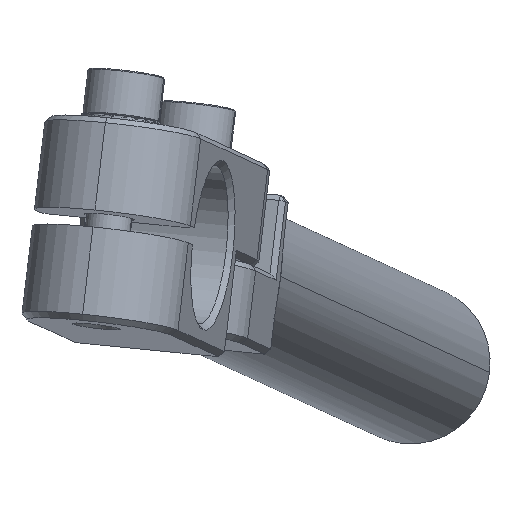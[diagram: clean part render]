
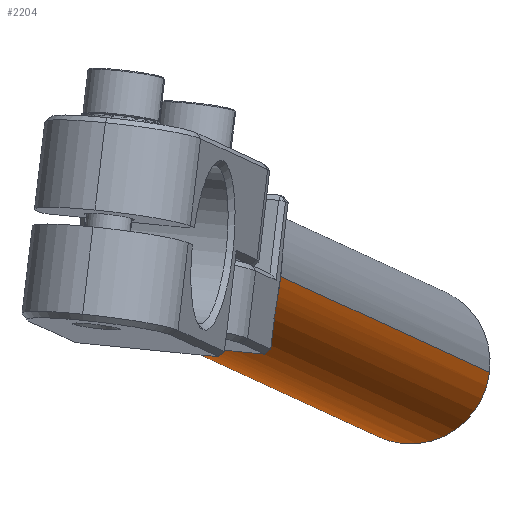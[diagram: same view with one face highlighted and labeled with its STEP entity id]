
A CAD part, top view. The second image highlights one B-rep face of the part: STEP entity #2204.
In plain terms, the highlighted cylindrical face has radius 7 mm (diameter 14 mm), a partial arc.
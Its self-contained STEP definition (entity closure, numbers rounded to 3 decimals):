
#195 = CARTESIAN_POINT ( 'NONE',  ( 6.612, -2.308, -0.5 ) ) ;
#255 = CARTESIAN_POINT ( 'NONE',  ( 6.798, -1.684, -0.418 ) ) ;
#693 = VERTEX_POINT ( 'NONE', #8920 ) ;
#699 = CARTESIAN_POINT ( 'NONE',  ( 1.473, -6.847, -0.376 ) ) ;
#709 = CARTESIAN_POINT ( 'NONE',  ( -6.952, -0.844, -0.228 ) ) ;
#712 = DIRECTION ( 'NONE',  ( 0., 0., 1. ) ) ;
#831 = CARTESIAN_POINT ( 'NONE',  ( -6.847, -1.473, -0.376 ) ) ;
#1049 = CARTESIAN_POINT ( 'NONE',  ( 0., -7., 0. ) ) ;
#1502 = ORIENTED_EDGE ( 'NONE', *, *, #10826, .T. ) ;
#1510 = CARTESIAN_POINT ( 'NONE',  ( 0.423, -6.99, -0.117 ) ) ;
#1741 = EDGE_CURVE ( 'NONE', #2185, #693, #2857, .T. ) ;
#1822 = DIRECTION ( 'NONE',  ( 0., 0., 1. ) ) ;
#1874 = CARTESIAN_POINT ( 'NONE',  ( 6.847, -1.473, -0.376 ) ) ;
#2057 = EDGE_CURVE ( 'NONE', #693, #7566, #4703, .T. ) ;
#2185 = VERTEX_POINT ( 'NONE', #9329 ) ;
#2204 = ADVANCED_FACE ( 'NONE', ( #7766 ), #7827, .T. ) ;
#2246 = CARTESIAN_POINT ( 'NONE',  ( 1.053, -6.924, -0.281 ) ) ;
#2375 = CARTESIAN_POINT ( 'NONE',  ( -6.533, -2.513, -0.5 ) ) ;
#2385 = CARTESIAN_POINT ( 'NONE',  ( -7., 0., -79.5 ) ) ;
#2514 = VERTEX_POINT ( 'NONE', #5597 ) ;
#2595 = VECTOR ( 'NONE', #7244, 1000. ) ;
#2727 = CARTESIAN_POINT ( 'NONE',  ( 6.962, -0.843, -0.234 ) ) ;
#2818 = VERTEX_POINT ( 'NONE', #2375 ) ;
#2857 = LINE ( 'NONE', #3722, #9081 ) ;
#2935 = CARTESIAN_POINT ( 'NONE',  ( -0.843, -6.962, -0.234 ) ) ;
#2950 = CARTESIAN_POINT ( 'NONE',  ( 7., 0., 0. ) ) ;
#3009 = EDGE_CURVE ( 'NONE', #2818, #11391, #6687, .T. ) ;
#3069 = CARTESIAN_POINT ( 'NONE',  ( -7., 0., -80. ) ) ;
#3416 = EDGE_CURVE ( 'NONE', #7566, #8265, #10704, .T. ) ;
#3488 = B_SPLINE_CURVE_WITH_KNOTS ( 'NONE', 3,
 ( #1049, #9899, #2935, #4561, #8328, #3862, #6369, #6422 ),
 .UNSPECIFIED., .F., .F.,
 ( 4, 2, 2, 4 ),
 ( 0., 0.001, 0.002, 0.003 ),
 .UNSPECIFIED. ) ;
#3680 = VERTEX_POINT ( 'NONE', #10500 ) ;
#3722 = CARTESIAN_POINT ( 'NONE',  ( 7., 0., -80. ) ) ;
#3800 = ORIENTED_EDGE ( 'NONE', *, *, #2057, .T. ) ;
#3823 = CARTESIAN_POINT ( 'NONE',  ( 7., -0.423, -0.117 ) ) ;
#3862 = CARTESIAN_POINT ( 'NONE',  ( -2.101, -6.681, -0.48 ) ) ;
#4030 = CARTESIAN_POINT ( 'NONE',  ( 0., 0., -0.5 ) ) ;
#4046 = AXIS2_PLACEMENT_3D ( 'NONE', #5408, #8885, #7146 ) ;
#4224 = CARTESIAN_POINT ( 'NONE',  ( -7., -0.211, -0.058 ) ) ;
#4312 = ORIENTED_EDGE ( 'NONE', *, *, #1741, .T. ) ;
#4340 = EDGE_CURVE ( 'NONE', #7756, #2185, #10093, .T. ) ;
#4479 = ORIENTED_EDGE ( 'NONE', *, *, #4340, .T. ) ;
#4561 = CARTESIAN_POINT ( 'NONE',  ( -1.473, -6.847, -0.376 ) ) ;
#4703 = B_SPLINE_CURVE_WITH_KNOTS ( 'NONE', 3,
 ( #2950, #3823, #2727, #1874, #255, #8121, #195, #5392 ),
 .UNSPECIFIED., .F., .F.,
 ( 4, 2, 2, 4 ),
 ( 0., 0.001, 0.002, 0.003 ),
 .UNSPECIFIED. ) ;
#4779 = EDGE_LOOP ( 'NONE', ( #8778, #4479, #4312, #3800, #9768, #1502, #5177, #6556, #11158 ) ) ;
#5026 = CARTESIAN_POINT ( 'NONE',  ( 0., -7., 0. ) ) ;
#5081 = CARTESIAN_POINT ( 'NONE',  ( 1.684, -6.798, -0.418 ) ) ;
#5177 = ORIENTED_EDGE ( 'NONE', *, *, #9615, .T. ) ;
#5250 = EDGE_CURVE ( 'NONE', #2514, #2818, #11244, .T. ) ;
#5392 = CARTESIAN_POINT ( 'NONE',  ( 6.533, -2.513, -0.5 ) ) ;
#5408 = CARTESIAN_POINT ( 'NONE',  ( 0., 0., -0.5 ) ) ;
#5597 = CARTESIAN_POINT ( 'NONE',  ( -2.513, -6.533, -0.5 ) ) ;
#5664 = LINE ( 'NONE', #3069, #2595 ) ;
#6012 = CARTESIAN_POINT ( 'NONE',  ( 2.101, -6.681, -0.48 ) ) ;
#6369 = CARTESIAN_POINT ( 'NONE',  ( -2.308, -6.612, -0.5 ) ) ;
#6422 = CARTESIAN_POINT ( 'NONE',  ( -2.513, -6.533, -0.5 ) ) ;
#6489 = CARTESIAN_POINT ( 'NONE',  ( 6.533, -2.513, -0.5 ) ) ;
#6556 = ORIENTED_EDGE ( 'NONE', *, *, #5250, .T. ) ;
#6687 = B_SPLINE_CURVE_WITH_KNOTS ( 'NONE', 3,
 ( #7880, #10598, #8745, #8627, #831, #8797, #709, #10539, #4224, #7992 ),
 .UNSPECIFIED., .F., .F.,
 ( 4, 2, 2, 2, 4 ),
 ( 0., 0.001, 0.001, 0.002, 0.003 ),
 .UNSPECIFIED. ) ;
#6889 = CARTESIAN_POINT ( 'NONE',  ( 0.211, -7., -0.058 ) ) ;
#7146 = DIRECTION ( 'NONE',  ( 1., 0., 0. ) ) ;
#7244 = DIRECTION ( 'NONE',  ( 0., 0., 1. ) ) ;
#7566 = VERTEX_POINT ( 'NONE', #6489 ) ;
#7695 = CARTESIAN_POINT ( 'NONE',  ( 2.513, -6.533, -0.5 ) ) ;
#7754 = CARTESIAN_POINT ( 'NONE',  ( 0.844, -6.952, -0.228 ) ) ;
#7756 = VERTEX_POINT ( 'NONE', #2385 ) ;
#7766 = FACE_OUTER_BOUND ( 'NONE', #4779, .T. ) ;
#7827 = CYLINDRICAL_SURFACE ( 'NONE', #10947, 7. ) ;
#7880 = CARTESIAN_POINT ( 'NONE',  ( -6.533, -2.513, -0.5 ) ) ;
#7882 = DIRECTION ( 'NONE',  ( 1., 0., 0. ) ) ;
#7992 = CARTESIAN_POINT ( 'NONE',  ( -7., 0., 0. ) ) ;
#8079 = DIRECTION ( 'NONE',  ( 0., 0., 1. ) ) ;
#8121 = CARTESIAN_POINT ( 'NONE',  ( 6.681, -2.101, -0.48 ) ) ;
#8265 = VERTEX_POINT ( 'NONE', #9783 ) ;
#8295 = CARTESIAN_POINT ( 'NONE',  ( -7., 0., 0. ) ) ;
#8328 = CARTESIAN_POINT ( 'NONE',  ( -1.684, -6.798, -0.418 ) ) ;
#8627 = CARTESIAN_POINT ( 'NONE',  ( -6.798, -1.684, -0.418 ) ) ;
#8745 = CARTESIAN_POINT ( 'NONE',  ( -6.681, -2.101, -0.48 ) ) ;
#8778 = ORIENTED_EDGE ( 'NONE', *, *, #9221, .F. ) ;
#8797 = CARTESIAN_POINT ( 'NONE',  ( -6.924, -1.053, -0.281 ) ) ;
#8874 = DIRECTION ( 'NONE',  ( -1., 0., 0. ) ) ;
#8885 = DIRECTION ( 'NONE',  ( 0., 0., -1. ) ) ;
#8920 = CARTESIAN_POINT ( 'NONE',  ( 7., 0., 0. ) ) ;
#9015 = AXIS2_PLACEMENT_3D ( 'NONE', #4030, #11215, #11277 ) ;
#9081 = VECTOR ( 'NONE', #8079, 1000. ) ;
#9221 = EDGE_CURVE ( 'NONE', #7756, #11391, #5664, .T. ) ;
#9329 = CARTESIAN_POINT ( 'NONE',  ( 7., 0., -79.5 ) ) ;
#9615 = EDGE_CURVE ( 'NONE', #3680, #2514, #3488, .T. ) ;
#9747 = CARTESIAN_POINT ( 'NONE',  ( 0., 0., -79.5 ) ) ;
#9768 = ORIENTED_EDGE ( 'NONE', *, *, #3416, .T. ) ;
#9783 = CARTESIAN_POINT ( 'NONE',  ( 2.513, -6.533, -0.5 ) ) ;
#9899 = CARTESIAN_POINT ( 'NONE',  ( -0.423, -7., -0.117 ) ) ;
#9920 = AXIS2_PLACEMENT_3D ( 'NONE', #9747, #1822, #8874 ) ;
#9962 = B_SPLINE_CURVE_WITH_KNOTS ( 'NONE', 3,
 ( #7695, #11108, #6012, #5081, #699, #2246, #7754, #1510, #6889, #5026 ),
 .UNSPECIFIED., .F., .F.,
 ( 4, 2, 2, 2, 4 ),
 ( 0., 0.001, 0.001, 0.002, 0.003 ),
 .UNSPECIFIED. ) ;
#10093 = CIRCLE ( 'NONE', #9920, 7. ) ;
#10500 = CARTESIAN_POINT ( 'NONE',  ( 0., -7., 0. ) ) ;
#10539 = CARTESIAN_POINT ( 'NONE',  ( -6.99, -0.423, -0.117 ) ) ;
#10598 = CARTESIAN_POINT ( 'NONE',  ( -6.612, -2.308, -0.5 ) ) ;
#10704 = CIRCLE ( 'NONE', #4046, 7. ) ;
#10826 = EDGE_CURVE ( 'NONE', #8265, #3680, #9962, .T. ) ;
#10947 = AXIS2_PLACEMENT_3D ( 'NONE', #11360, #712, #7882 ) ;
#11108 = CARTESIAN_POINT ( 'NONE',  ( 2.308, -6.612, -0.5 ) ) ;
#11158 = ORIENTED_EDGE ( 'NONE', *, *, #3009, .T. ) ;
#11215 = DIRECTION ( 'NONE',  ( 0., 0., -1. ) ) ;
#11244 = CIRCLE ( 'NONE', #9015, 7. ) ;
#11277 = DIRECTION ( 'NONE',  ( 1., 0., 0. ) ) ;
#11360 = CARTESIAN_POINT ( 'NONE',  ( 0., 0., -80. ) ) ;
#11391 = VERTEX_POINT ( 'NONE', #8295 ) ;
